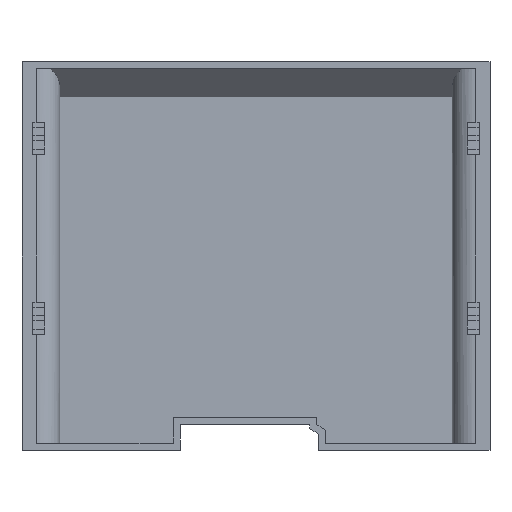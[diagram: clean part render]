
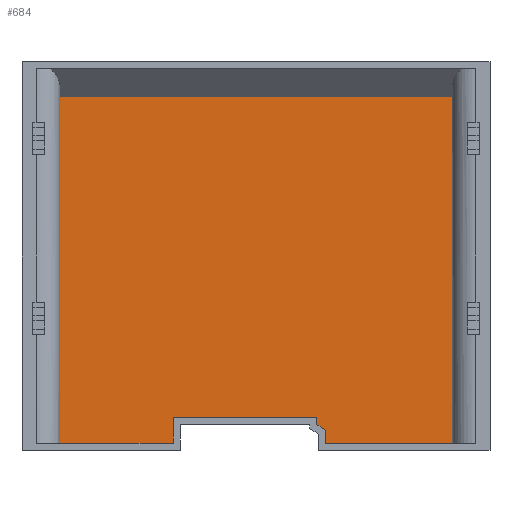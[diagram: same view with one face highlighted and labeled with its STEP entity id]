
A CAD part, left-side view. The second image highlights one B-rep face of the part: STEP entity #684.
In plain terms, the highlighted planar face has unit normal (-1, 0, 0).
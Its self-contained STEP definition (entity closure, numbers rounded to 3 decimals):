
#665 = VERTEX_POINT ( 'NONE', #2170 ) ;
#666 = ORIENTED_EDGE ( 'NONE', *, *, #667, .T. ) ;
#667 = EDGE_CURVE ( 'NONE', #665, #668, #2169, .T. ) ;
#668 = VERTEX_POINT ( 'NONE', #2165 ) ;
#669 = ORIENTED_EDGE ( 'NONE', *, *, #670, .F. ) ;
#670 = EDGE_CURVE ( 'NONE', #692, #668, #2164, .T. ) ;
#684 = ADVANCED_FACE ( 'NONE', ( #2203 ), #2202, .T. ) ;
#685 = EDGE_LOOP ( 'NONE', ( #736, #740, #666, #669, #693, #688, #690, #698, #701, #712 ) ) ;
#688 = ORIENTED_EDGE ( 'NONE', *, *, #689, .F. ) ;
#689 = EDGE_CURVE ( 'NONE', #696, #695, #2193, .T. ) ;
#690 = ORIENTED_EDGE ( 'NONE', *, *, #691, .F. ) ;
#691 = EDGE_CURVE ( 'NONE', #697, #696, #2189, .T. ) ;
#692 = VERTEX_POINT ( 'NONE', #2247 ) ;
#693 = ORIENTED_EDGE ( 'NONE', *, *, #694, .F. ) ;
#694 = EDGE_CURVE ( 'NONE', #695, #692, #2246, .T. ) ;
#695 = VERTEX_POINT ( 'NONE', #2242 ) ;
#696 = VERTEX_POINT ( 'NONE', #2241 ) ;
#697 = VERTEX_POINT ( 'NONE', #2240 ) ;
#698 = ORIENTED_EDGE ( 'NONE', *, *, #699, .F. ) ;
#699 = EDGE_CURVE ( 'NONE', #700, #697, #2239, .T. ) ;
#700 = VERTEX_POINT ( 'NONE', #2235 ) ;
#701 = ORIENTED_EDGE ( 'NONE', *, *, #723, .F. ) ;
#712 = ORIENTED_EDGE ( 'NONE', *, *, #729, .F. ) ;
#723 = EDGE_CURVE ( 'NONE', #786, #700, #2262, .T. ) ;
#729 = EDGE_CURVE ( 'NONE', #739, #786, #2250, .T. ) ;
#736 = ORIENTED_EDGE ( 'NONE', *, *, #737, .F. ) ;
#737 = EDGE_CURVE ( 'NONE', #738, #739, #2297, .T. ) ;
#738 = VERTEX_POINT ( 'NONE', #2293 ) ;
#739 = VERTEX_POINT ( 'NONE', #2292 ) ;
#740 = ORIENTED_EDGE ( 'NONE', *, *, #741, .T. ) ;
#741 = EDGE_CURVE ( 'NONE', #738, #665, #2291, .T. ) ;
#786 = VERTEX_POINT ( 'NONE', #2403 ) ;
#2161 = DIRECTION ( 'NONE',  ( 0., 0., 1. ) ) ;
#2162 = VECTOR ( 'NONE', #2161, 1000. ) ;
#2163 = CARTESIAN_POINT ( 'NONE',  ( 9., 51., -7.2 ) ) ;
#2164 = LINE ( 'NONE', #2163, #2162 ) ;
#2165 = CARTESIAN_POINT ( 'NONE',  ( 9., 51., 90.972 ) ) ;
#2166 = DIRECTION ( 'NONE',  ( 0., 1., 0. ) ) ;
#2167 = VECTOR ( 'NONE', #2166, 1000. ) ;
#2168 = CARTESIAN_POINT ( 'NONE',  ( 9., -68.5, 90.972 ) ) ;
#2169 = LINE ( 'NONE', #2168, #2167 ) ;
#2170 = CARTESIAN_POINT ( 'NONE',  ( 9., -58., 90.972 ) ) ;
#2186 = DIRECTION ( 'NONE',  ( 0., 1., 0. ) ) ;
#2187 = VECTOR ( 'NONE', #2186, 1000. ) ;
#2188 = CARTESIAN_POINT ( 'NONE',  ( 9., 61.5, 2. ) ) ;
#2189 = LINE ( 'NONE', #2188, #2187 ) ;
#2190 = DIRECTION ( 'NONE',  ( 0., 0., -1. ) ) ;
#2191 = VECTOR ( 'NONE', #2190, 1000. ) ;
#2192 = CARTESIAN_POINT ( 'NONE',  ( 9., 19.5, -7.2 ) ) ;
#2193 = LINE ( 'NONE', #2192, #2191 ) ;
#2198 = DIRECTION ( 'NONE',  ( 0., 0., 1. ) ) ;
#2199 = DIRECTION ( 'NONE',  ( -1., 0., 0. ) ) ;
#2200 = CARTESIAN_POINT ( 'NONE',  ( 9., 61.5, -7.2 ) ) ;
#2201 = AXIS2_PLACEMENT_3D ( 'NONE', #2200, #2199, #2198 ) ;
#2202 = PLANE ( 'NONE',  #2201 ) ;
#2203 = FACE_OUTER_BOUND ( 'NONE', #685, .T. ) ;
#2235 = CARTESIAN_POINT ( 'NONE',  ( 9., -20.4, -0.017 ) ) ;
#2236 = DIRECTION ( 'NONE',  ( 0., 0., 1. ) ) ;
#2237 = VECTOR ( 'NONE', #2236, 1000. ) ;
#2238 = CARTESIAN_POINT ( 'NONE',  ( 9., -20.4, -7.2 ) ) ;
#2239 = LINE ( 'NONE', #2238, #2237 ) ;
#2240 = CARTESIAN_POINT ( 'NONE',  ( 9., -20.4, 2. ) ) ;
#2241 = CARTESIAN_POINT ( 'NONE',  ( 9., 19.5, 2. ) ) ;
#2242 = CARTESIAN_POINT ( 'NONE',  ( 9., 19.5, -5.2 ) ) ;
#2243 = DIRECTION ( 'NONE',  ( 0., 1., 0. ) ) ;
#2244 = VECTOR ( 'NONE', #2243, 1000. ) ;
#2245 = CARTESIAN_POINT ( 'NONE',  ( 9., 61.5, -5.2 ) ) ;
#2246 = LINE ( 'NONE', #2245, #2244 ) ;
#2247 = CARTESIAN_POINT ( 'NONE',  ( 9., 51., -5.2 ) ) ;
#2248 = VECTOR ( 'NONE', #2310, 1000. ) ;
#2249 = CARTESIAN_POINT ( 'NONE',  ( 9., -22.8, -7.2 ) ) ;
#2250 = LINE ( 'NONE', #2249, #2248 ) ;
#2259 = DIRECTION ( 'NONE',  ( 0., 0.842, 0.54 ) ) ;
#2260 = VECTOR ( 'NONE', #2259, 1000. ) ;
#2261 = CARTESIAN_POINT ( 'NONE',  ( 9., 34.349, 35.114 ) ) ;
#2262 = LINE ( 'NONE', #2261, #2260 ) ;
#2288 = DIRECTION ( 'NONE',  ( 0., 0., 1. ) ) ;
#2289 = VECTOR ( 'NONE', #2288, 1000. ) ;
#2290 = CARTESIAN_POINT ( 'NONE',  ( 9., -58., -19.579 ) ) ;
#2291 = LINE ( 'NONE', #2290, #2289 ) ;
#2292 = CARTESIAN_POINT ( 'NONE',  ( 9., -22.8, -5.2 ) ) ;
#2293 = CARTESIAN_POINT ( 'NONE',  ( 9., -58., -5.2 ) ) ;
#2294 = DIRECTION ( 'NONE',  ( 0., 1., 0. ) ) ;
#2295 = VECTOR ( 'NONE', #2294, 1000. ) ;
#2296 = CARTESIAN_POINT ( 'NONE',  ( 9., 61.5, -5.2 ) ) ;
#2297 = LINE ( 'NONE', #2296, #2295 ) ;
#2310 = DIRECTION ( 'NONE',  ( 0., 0., 1. ) ) ;
#2403 = CARTESIAN_POINT ( 'NONE',  ( 9., -22.8, -1.557 ) ) ;
